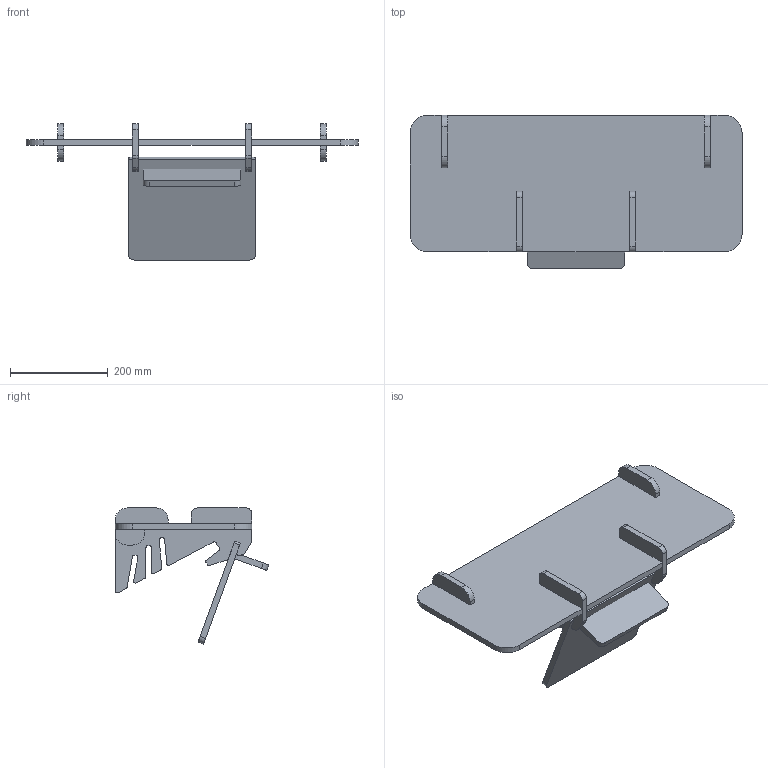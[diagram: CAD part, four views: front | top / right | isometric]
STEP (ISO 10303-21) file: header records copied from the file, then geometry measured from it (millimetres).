
FILE_DESCRIPTION(/* description */ (''),/* implementation_level */ '2;1');
FILE_NAME(/* name */ 'D:/Cloud/SJ Drive/Work/Projects/2106 Bath Caddy/BathBridge-V01 v4.step',/* time_stamp */ '2021-05-31T17:57:22+10:00',/* author */ (''),/* organization */ (''),/* preprocessor_version */ 'ST-DEVELOPER v18.1',/* originating_system */ 'Autodesk Translation Framework v10.9.0.1377',/* authorisation */ '');
FILE_SCHEMA (('AUTOMOTIVE_DESIGN { 1 0 10303 214 3 1 1 }'));
Length unit declared in the file: millimetre
Products named in the file (1): BathBridge-V01
Bounding box: 680 x 314.25 x 278.84 mm (x, y, z)
Volume: 3666868.4 mm3; surface area: 725816.7 mm2
Topology: 7 solids, 7 shells, 230 faces, 642 edges, 428 vertices
Faces by surface type: plane 150, cylinder 80
Entity records: 7417 total; most frequent: CARTESIAN_POINT 1301, ORIENTED_EDGE 1284, DIRECTION 1264, EDGE_CURVE 642, LINE 482, VECTOR 482, VERTEX_POINT 428, AXIS2_PLACEMENT_3D 391
